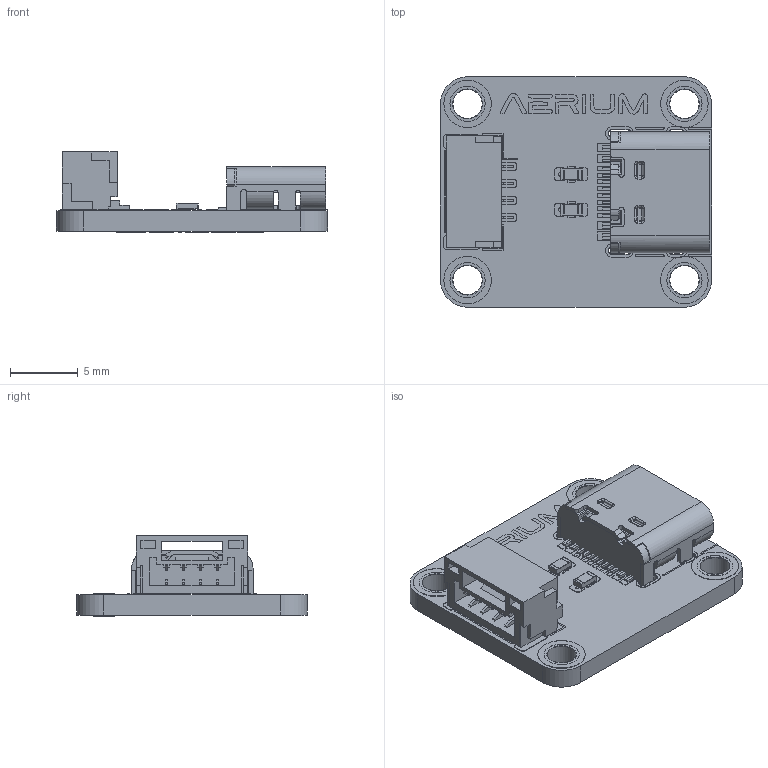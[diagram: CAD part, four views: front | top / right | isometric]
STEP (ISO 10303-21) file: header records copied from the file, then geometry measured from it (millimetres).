
FILE_DESCRIPTION(/* description */ ('KiCad electronic assembly'),/* implementation_level */ '2;1');
FILE_NAME(/* name */ 'USB_Cable_Female_C.step',/* time_stamp */ '2026-09-15T16:39:32+03:00',/* author */ (''),/* organization */ (''),/* preprocessor_version */ 'ST-DEVELOPER v20.1',/* originating_system */ 'Autodesk Translation Framework v15.8.0.0',/* authorisation */ '');
FILE_SCHEMA (('AUTOMOTIVE_DESIGN { 1 0 10303 214 3 1 1 }'));
Length unit declared in the file: millimetre
Products named in the file (12): 2026-09-15-13-37-01-177; 2026-09-15-13-37-01-178; 2026-09-15-13-37-01-179; 2026-09-15-13-37-01-180; 2026-09-15-13-37-01-181; 2026-09-15-13-37-01-182; 2026-09-15-13-37-01-184; SC009_USB_Cable_Female_C_pad; 2026-09-15-13-37-01-192; 2026-09-15-13-37-01-193; 2026-09-15-13-37-01-194; 2026-09-15-13-37-01-183
Assembly tree (12 placements, depth 3):
  2026-09-15-13-37-01-177
    2026-09-15-13-37-01-178
      2026-09-15-13-37-01-179
      2026-09-15-13-37-01-180
      2026-09-15-13-37-01-181
      2026-09-15-13-37-01-182
    2026-09-15-13-37-01-183  x2
    2026-09-15-13-37-01-184
    SC009_USB_Cable_Female_C_pad
    2026-09-15-13-37-01-192
    2026-09-15-13-37-01-193
    2026-09-15-13-37-01-194
Bounding box: 20 x 17 x 5.92 mm (x, y, z)
Volume: 668.6 mm3; surface area: 1988.8 mm2
Topology: 66 solids, 91 shells, 1278 faces, 3537 edges, 2401 vertices
Faces by surface type: plane 880, cylinder 334, sphere 32, torus 26, cone 6
Full cylindrical faces by diameter (mm): 0.25 x2, 0.5 x2, 0.65 x2, 2.15 x20, 2.2 x8, 2.6 x8, 3.5 x8
Entity records: 40260 total; most frequent: CARTESIAN_POINT 7095, DIRECTION 6727, ORIENTED_EDGE 6409, EDGE_CURVE 3437, LINE 2689, VECTOR 2689, VERTEX_POINT 2357, AXIS2_PLACEMENT_3D 2019
